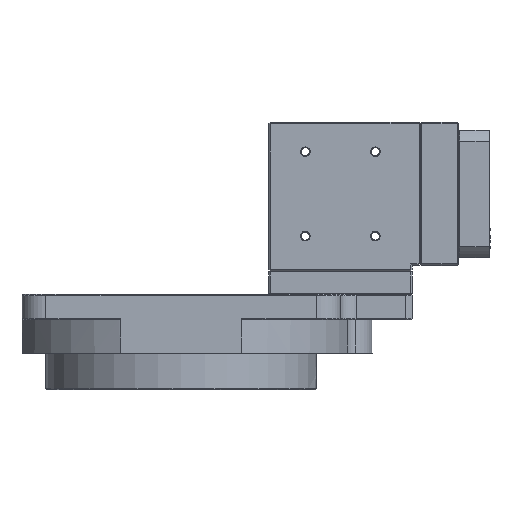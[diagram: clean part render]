
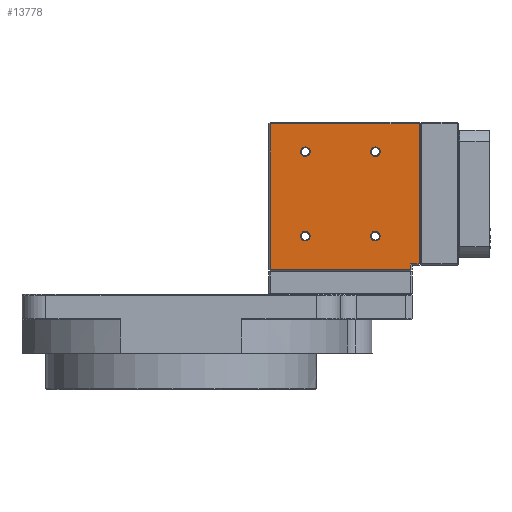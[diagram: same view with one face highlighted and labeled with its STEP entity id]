
A CAD part, left-side view. The second image highlights one B-rep face of the part: STEP entity #13778.
In plain terms, the highlighted planar face has unit normal (-1, 0, 0).
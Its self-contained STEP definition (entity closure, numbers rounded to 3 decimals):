
#1157 = AXIS2_PLACEMENT_3D ( 'NONE', #3319, #3330, #3289 ) ;
#1366 = AXIS2_PLACEMENT_3D ( 'NONE', #5019, #5024, #5013 ) ;
#1818 = LINE ( 'NONE', #2970, #1858 ) ;
#1858 = VECTOR ( 'NONE', #2989, 1000. ) ;
#1865 = LINE ( 'NONE', #3079, #1917 ) ;
#1917 = VECTOR ( 'NONE', #3097, 1000. ) ;
#1977 = CIRCLE ( 'NONE', #1157, 3. ) ;
#2447 = FACE_BOUND ( 'NONE', #11435, .T. ) ;
#2456 = FACE_BOUND ( 'NONE', #11400, .T. ) ;
#2458 = FACE_OUTER_BOUND ( 'NONE', #11468, .T. ) ;
#2472 = FACE_BOUND ( 'NONE', #11418, .T. ) ;
#2483 = FACE_BOUND ( 'NONE', #11391, .T. ) ;
#2970 = CARTESIAN_POINT ( 'NONE',  ( -45., -144., 18. ) ) ;
#2989 = DIRECTION ( 'NONE',  ( 0., 0., 1. ) ) ;
#3079 = CARTESIAN_POINT ( 'NONE',  ( -45., -150.5, 19. ) ) ;
#3097 = DIRECTION ( 'NONE',  ( 0., -1., 0. ) ) ;
#3289 = DIRECTION ( 'NONE',  ( 0., 1., 0. ) ) ;
#3319 = CARTESIAN_POINT ( 'NONE',  ( -45., -78., 89.5 ) ) ;
#3330 = DIRECTION ( 'NONE',  ( 1., 0., 0. ) ) ;
#5004 = PLANE ( 'NONE',  #1366 ) ;
#5013 = DIRECTION ( 'NONE',  ( 0., 1., 0. ) ) ;
#5019 = CARTESIAN_POINT ( 'NONE',  ( -45., -150.5, 108. ) ) ;
#5024 = DIRECTION ( 'NONE',  ( -1., 0., 0. ) ) ;
#8494 = CARTESIAN_POINT ( 'NONE',  ( -45., -125., 36.5 ) ) ;
#8497 = CARTESIAN_POINT ( 'NONE',  ( -45., -81., 89.5 ) ) ;
#8510 = CARTESIAN_POINT ( 'NONE',  ( -45., -81., 36.5 ) ) ;
#8520 = CARTESIAN_POINT ( 'NONE',  ( -45., -119., 36.5 ) ) ;
#8524 = CARTESIAN_POINT ( 'NONE',  ( -45., -119., 89.5 ) ) ;
#8540 = CARTESIAN_POINT ( 'NONE',  ( -45., -75., 36.5 ) ) ;
#8575 = CARTESIAN_POINT ( 'NONE',  ( -45., -125., 89.5 ) ) ;
#8610 = CARTESIAN_POINT ( 'NONE',  ( -45., -149.5, 107. ) ) ;
#8618 = CARTESIAN_POINT ( 'NONE',  ( -45., -149.5, 19. ) ) ;
#8633 = CARTESIAN_POINT ( 'NONE',  ( -45., -56., 15.5 ) ) ;
#8639 = CARTESIAN_POINT ( 'NONE',  ( -45., -144., 19. ) ) ;
#8656 = CARTESIAN_POINT ( 'NONE',  ( -45., -75., 89.5 ) ) ;
#8659 = CARTESIAN_POINT ( 'NONE',  ( -45., -56., 107. ) ) ;
#8702 = CARTESIAN_POINT ( 'NONE',  ( -45., -144., 15.5 ) ) ;
#11008 = EDGE_CURVE ( 'NONE', #18079, #18106, #27522, .T. ) ;
#11019 = EDGE_CURVE ( 'NONE', #18122, #18075, #27611, .T. ) ;
#11020 = EDGE_CURVE ( 'NONE', #18038, #17984, #27616, .T. ) ;
#11039 = EDGE_CURVE ( 'NONE', #17966, #17994, #27626, .T. ) ;
#11054 = EDGE_CURVE ( 'NONE', #18075, #18079, #27607, .T. ) ;
#11064 = EDGE_CURVE ( 'NONE', #17960, #17990, #27704, .T. ) ;
#11065 = EDGE_CURVE ( 'NONE', #17990, #17960, #27679, .T. ) ;
#11078 = EDGE_CURVE ( 'NONE', #18063, #17996, #27688, .T. ) ;
#11082 = EDGE_CURVE ( 'NONE', #17984, #18038, #27681, .T. ) ;
#11088 = EDGE_CURVE ( 'NONE', #17994, #17966, #27662, .T. ) ;
#11219 = EDGE_CURVE ( 'NONE', #18106, #18133, #27862, .T. ) ;
#11391 = EDGE_LOOP ( 'NONE', ( #20673, #20723 ) ) ;
#11400 = EDGE_LOOP ( 'NONE', ( #20700, #20676 ) ) ;
#11418 = EDGE_LOOP ( 'NONE', ( #20740, #20670 ) ) ;
#11435 = EDGE_LOOP ( 'NONE', ( #20762, #20765 ) ) ;
#11468 = EDGE_LOOP ( 'NONE', ( #20683, #20681, #20758, #20784, #20682, #20764 ) ) ;
#13055 = EDGE_CURVE ( 'NONE', #18133, #18092, #1818, .T. ) ;
#13085 = EDGE_CURVE ( 'NONE', #18092, #18122, #1865, .T. ) ;
#13157 = EDGE_CURVE ( 'NONE', #17996, #18063, #1977, .T. ) ;
#13778 = ADVANCED_FACE ( 'NONE', ( #2456, #2447, #2483, #2472, #2458 ), #5004, .T. ) ;
#17960 = VERTEX_POINT ( 'NONE', #8540 ) ;
#17966 = VERTEX_POINT ( 'NONE', #8494 ) ;
#17984 = VERTEX_POINT ( 'NONE', #8524 ) ;
#17990 = VERTEX_POINT ( 'NONE', #8510 ) ;
#17994 = VERTEX_POINT ( 'NONE', #8520 ) ;
#17996 = VERTEX_POINT ( 'NONE', #8497 ) ;
#18038 = VERTEX_POINT ( 'NONE', #8575 ) ;
#18063 = VERTEX_POINT ( 'NONE', #8656 ) ;
#18075 = VERTEX_POINT ( 'NONE', #8610 ) ;
#18079 = VERTEX_POINT ( 'NONE', #8659 ) ;
#18092 = VERTEX_POINT ( 'NONE', #8639 ) ;
#18106 = VERTEX_POINT ( 'NONE', #8633 ) ;
#18122 = VERTEX_POINT ( 'NONE', #8618 ) ;
#18133 = VERTEX_POINT ( 'NONE', #8702 ) ;
#20670 = ORIENTED_EDGE ( 'NONE', *, *, #11039, .T. ) ;
#20673 = ORIENTED_EDGE ( 'NONE', *, *, #11064, .T. ) ;
#20676 = ORIENTED_EDGE ( 'NONE', *, *, #13157, .T. ) ;
#20681 = ORIENTED_EDGE ( 'NONE', *, *, #11019, .T. ) ;
#20682 = ORIENTED_EDGE ( 'NONE', *, *, #11219, .T. ) ;
#20683 = ORIENTED_EDGE ( 'NONE', *, *, #13085, .T. ) ;
#20700 = ORIENTED_EDGE ( 'NONE', *, *, #11078, .T. ) ;
#20723 = ORIENTED_EDGE ( 'NONE', *, *, #11065, .T. ) ;
#20740 = ORIENTED_EDGE ( 'NONE', *, *, #11088, .T. ) ;
#20758 = ORIENTED_EDGE ( 'NONE', *, *, #11054, .T. ) ;
#20762 = ORIENTED_EDGE ( 'NONE', *, *, #11082, .T. ) ;
#20764 = ORIENTED_EDGE ( 'NONE', *, *, #13055, .T. ) ;
#20765 = ORIENTED_EDGE ( 'NONE', *, *, #11020, .T. ) ;
#20784 = ORIENTED_EDGE ( 'NONE', *, *, #11008, .T. ) ;
#24934 = AXIS2_PLACEMENT_3D ( 'NONE', #27236, #27218, #27238 ) ;
#24935 = AXIS2_PLACEMENT_3D ( 'NONE', #27064, #27062, #27076 ) ;
#24939 = AXIS2_PLACEMENT_3D ( 'NONE', #27278, #27243, #27247 ) ;
#24945 = AXIS2_PLACEMENT_3D ( 'NONE', #27196, #27168, #27170 ) ;
#24952 = AXIS2_PLACEMENT_3D ( 'NONE', #27125, #27147, #27149 ) ;
#24956 = AXIS2_PLACEMENT_3D ( 'NONE', #27178, #27180, #27227 ) ;
#24999 = AXIS2_PLACEMENT_3D ( 'NONE', #27282, #27249, #27271 ) ;
#27011 = CARTESIAN_POINT ( 'NONE',  ( -45., -56., 14.5 ) ) ;
#27056 = DIRECTION ( 'NONE',  ( 0., 0., -1. ) ) ;
#27062 = DIRECTION ( 'NONE',  ( 1., 0., 0. ) ) ;
#27063 = DIRECTION ( 'NONE',  ( 0., 0., 1. ) ) ;
#27064 = CARTESIAN_POINT ( 'NONE',  ( -45., -122., 89.5 ) ) ;
#27076 = DIRECTION ( 'NONE',  ( 0., 1., 0. ) ) ;
#27081 = CARTESIAN_POINT ( 'NONE',  ( -45., -149.5, 108. ) ) ;
#27125 = CARTESIAN_POINT ( 'NONE',  ( -45., -122., 36.5 ) ) ;
#27139 = CARTESIAN_POINT ( 'NONE',  ( -45., -150.5, 107. ) ) ;
#27140 = DIRECTION ( 'NONE',  ( 0., 1., 0. ) ) ;
#27147 = DIRECTION ( 'NONE',  ( 1., 0., 0. ) ) ;
#27149 = DIRECTION ( 'NONE',  ( 0., 1., 0. ) ) ;
#27168 = DIRECTION ( 'NONE',  ( 1., 0., 0. ) ) ;
#27170 = DIRECTION ( 'NONE',  ( 0., 1., 0. ) ) ;
#27178 = CARTESIAN_POINT ( 'NONE',  ( -45., -78., 36.5 ) ) ;
#27180 = DIRECTION ( 'NONE',  ( 1., 0., 0. ) ) ;
#27196 = CARTESIAN_POINT ( 'NONE',  ( -45., -78., 36.5 ) ) ;
#27218 = DIRECTION ( 'NONE',  ( 1., 0., 0. ) ) ;
#27227 = DIRECTION ( 'NONE',  ( 0., 1., 0. ) ) ;
#27236 = CARTESIAN_POINT ( 'NONE',  ( -45., -78., 89.5 ) ) ;
#27238 = DIRECTION ( 'NONE',  ( 0., 1., 0. ) ) ;
#27243 = DIRECTION ( 'NONE',  ( 1., 0., 0. ) ) ;
#27247 = DIRECTION ( 'NONE',  ( 0., 1., 0. ) ) ;
#27249 = DIRECTION ( 'NONE',  ( 1., 0., 0. ) ) ;
#27271 = DIRECTION ( 'NONE',  ( 0., 1., 0. ) ) ;
#27278 = CARTESIAN_POINT ( 'NONE',  ( -45., -122., 89.5 ) ) ;
#27282 = CARTESIAN_POINT ( 'NONE',  ( -45., -122., 36.5 ) ) ;
#27522 = LINE ( 'NONE', #27011, #27526 ) ;
#27526 = VECTOR ( 'NONE', #27056, 1000. ) ;
#27591 = VECTOR ( 'NONE', #27063, 1000. ) ;
#27607 = LINE ( 'NONE', #27139, #27608 ) ;
#27608 = VECTOR ( 'NONE', #27140, 1000. ) ;
#27611 = LINE ( 'NONE', #27081, #27591 ) ;
#27616 = CIRCLE ( 'NONE', #24935, 3. ) ;
#27626 = CIRCLE ( 'NONE', #24952, 3. ) ;
#27662 = CIRCLE ( 'NONE', #24999, 3. ) ;
#27679 = CIRCLE ( 'NONE', #24956, 3. ) ;
#27681 = CIRCLE ( 'NONE', #24939, 3. ) ;
#27688 = CIRCLE ( 'NONE', #24934, 3. ) ;
#27704 = CIRCLE ( 'NONE', #24945, 3. ) ;
#27862 = LINE ( 'NONE', #28844, #27892 ) ;
#27892 = VECTOR ( 'NONE', #28852, 1000. ) ;
#28844 = CARTESIAN_POINT ( 'NONE',  ( -45., -145., 15.5 ) ) ;
#28852 = DIRECTION ( 'NONE',  ( 0., -1., 0. ) ) ;
